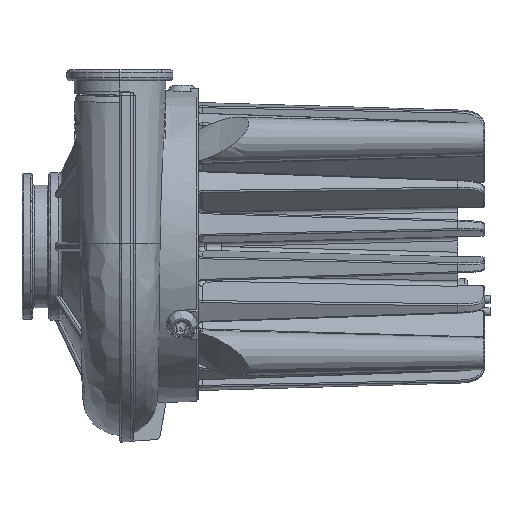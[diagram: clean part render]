
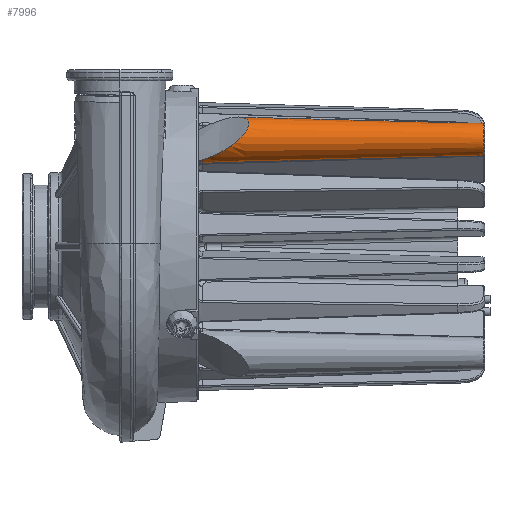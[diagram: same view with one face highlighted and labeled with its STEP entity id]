
A CAD part, left-side view. The second image highlights one B-rep face of the part: STEP entity #7996.
In plain terms, the highlighted conical face has half-angle 1.5 degrees and reference radius 3 mm.
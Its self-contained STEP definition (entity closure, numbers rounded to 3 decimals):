
#547=CONICAL_SURFACE('',#25968,3.,1.5);
#2120=FACE_OUTER_BOUND('',#10064,.T.);
#6475=B_SPLINE_CURVE_WITH_KNOTS('',3,(#48581,#48582,#48583,#48584),
 .UNSPECIFIED.,.F.,.F.,(4,4),(0.,1.),.UNSPECIFIED.);
#6476=B_SPLINE_CURVE_WITH_KNOTS('',3,(#48589,#48590,#48591,#48592),
 .UNSPECIFIED.,.F.,.F.,(4,4),(0.,1.),.UNSPECIFIED.);
#6477=B_SPLINE_CURVE_WITH_KNOTS('',3,(#48594,#48595,#48596,#48597),
 .UNSPECIFIED.,.F.,.F.,(4,4),(0.,1.),.UNSPECIFIED.);
#6478=B_SPLINE_CURVE_WITH_KNOTS('',3,(#48599,#48600,#48601,#48602,#48603,
#48604,#48605,#48606),.UNSPECIFIED.,.F.,.F.,(4,2,2,4),(0.,0.25,
0.5,1.),.UNSPECIFIED.);
#6479=B_SPLINE_CURVE_WITH_KNOTS('',3,(#48607,#48608,#48609,#48610,#48611,
#48612,#48613,#48614,#48615,#48616,#48617,#48618,#48619,#48620,#48621,#48622,
#48623,#48624,#48625,#48626,#48627,#48628,#48629,#48630,#48631,#48632,#48633,
#48634,#48635,#48636,#48637,#48638,#48639,#48640),.UNSPECIFIED.,.F.,.F.,
(4,2,2,2,2,2,2,2,2,2,2,2,2,2,2,2,4),(0.,0.125,0.187,
0.25,0.312,0.344,0.359,
0.375,0.5,0.562,0.625,
0.687,0.75,0.812,0.844,
0.875,1.),.UNSPECIFIED.);
#6480=B_SPLINE_CURVE_WITH_KNOTS('',3,(#48641,#48642,#48643,#48644),
 .UNSPECIFIED.,.F.,.F.,(4,4),(0.,1.),.UNSPECIFIED.);
#6481=B_SPLINE_CURVE_WITH_KNOTS('',3,(#48646,#48647,#48648,#48649),
 .UNSPECIFIED.,.F.,.F.,(4,4),(0.,1.),.UNSPECIFIED.);
#7996=ADVANCED_FACE('',(#2120),#547,.T.);
#10064=EDGE_LOOP('',(#15788,#15789,#15790,#15791,#15792,#15793,#15794,#15795));
#15788=ORIENTED_EDGE('',*,*,#23440,.T.);
#15789=ORIENTED_EDGE('',*,*,#23441,.T.);
#15790=ORIENTED_EDGE('',*,*,#23442,.T.);
#15791=ORIENTED_EDGE('',*,*,#23443,.T.);
#15792=ORIENTED_EDGE('',*,*,#23444,.T.);
#15793=ORIENTED_EDGE('',*,*,#23445,.T.);
#15794=ORIENTED_EDGE('',*,*,#23446,.T.);
#15795=ORIENTED_EDGE('',*,*,#23447,.T.);
#19217=VERTEX_POINT('',#40319);
#19218=VERTEX_POINT('',#40321);
#20303=VERTEX_POINT('',#48585);
#20304=VERTEX_POINT('',#48586);
#20305=VERTEX_POINT('',#48588);
#20306=VERTEX_POINT('',#48593);
#20307=VERTEX_POINT('',#48598);
#20308=VERTEX_POINT('',#48645);
#23440=EDGE_CURVE('',#20303,#20304,#6475,.T.);
#23441=EDGE_CURVE('',#20304,#20305,#24499,.T.);
#23442=EDGE_CURVE('',#20305,#20306,#6476,.T.);
#23443=EDGE_CURVE('',#20306,#20307,#6477,.T.);
#23444=EDGE_CURVE('',#20307,#19218,#6478,.T.);
#23445=EDGE_CURVE('',#19218,#19217,#6479,.T.);
#23446=EDGE_CURVE('',#19217,#20308,#6480,.T.);
#23447=EDGE_CURVE('',#20308,#20303,#6481,.T.);
#24499=CIRCLE('',#25967,3.008);
#25967=AXIS2_PLACEMENT_3D('',#48587,#30270,#30271);
#25968=AXIS2_PLACEMENT_3D('',#48650,#30272,#30273);
#30270=DIRECTION('',(0.,1.,0.));
#30271=DIRECTION('',(0.,0.,1.));
#30272=DIRECTION('',(0.,1.,0.));
#30273=DIRECTION('',(0.,0.,1.));
#40319=CARTESIAN_POINT('',(-21.766,48.5,15.97));
#40321=CARTESIAN_POINT('',(-15.97,48.5,21.766));
#48581=CARTESIAN_POINT('',(-19.382,47.721,15.664));
#48582=CARTESIAN_POINT('',(-19.246,27.88,16.208));
#48583=CARTESIAN_POINT('',(-19.154,10.404,16.699));
#48584=CARTESIAN_POINT('',(-19.101,-4.708,17.131));
#48585=CARTESIAN_POINT('',(-19.382,47.721,15.664));
#48586=CARTESIAN_POINT('',(-19.101,-4.708,17.131));
#48587=CARTESIAN_POINT('',(-20.001,-4.708,20.001));
#48588=CARTESIAN_POINT('',(-17.131,-4.708,19.101));
#48589=CARTESIAN_POINT('',(-17.131,-4.708,19.101));
#48590=CARTESIAN_POINT('',(-16.699,10.404,19.154));
#48591=CARTESIAN_POINT('',(-16.208,27.88,19.246));
#48592=CARTESIAN_POINT('',(-15.664,47.721,19.382));
#48593=CARTESIAN_POINT('',(-15.664,47.721,19.382));
#48594=CARTESIAN_POINT('',(-15.664,47.721,19.382));
#48595=CARTESIAN_POINT('',(-15.568,47.721,20.051));
#48596=CARTESIAN_POINT('',(-15.631,47.721,20.742));
#48597=CARTESIAN_POINT('',(-15.844,47.721,21.383));
#48598=CARTESIAN_POINT('',(-15.844,47.721,21.383));
#48599=CARTESIAN_POINT('',(-15.844,47.721,21.383));
#48600=CARTESIAN_POINT('',(-15.851,47.761,21.407));
#48601=CARTESIAN_POINT('',(-15.863,47.826,21.449));
#48602=CARTESIAN_POINT('',(-15.896,47.985,21.552));
#48603=CARTESIAN_POINT('',(-15.903,48.014,21.572));
#48604=CARTESIAN_POINT('',(-15.949,48.244,21.703));
#48605=CARTESIAN_POINT('',(-15.966,48.38,21.752));
#48606=CARTESIAN_POINT('',(-15.968,48.5,21.763));
#48607=CARTESIAN_POINT('',(-15.97,48.502,21.769));
#48608=CARTESIAN_POINT('',(-16.418,46.778,22.676));
#48609=CARTESIAN_POINT('',(-17.033,45.473,23.187));
#48610=CARTESIAN_POINT('',(-17.701,44.147,23.629));
#48611=CARTESIAN_POINT('',(-17.839,43.89,23.706));
#48612=CARTESIAN_POINT('',(-18.357,43.019,23.938));
#48613=CARTESIAN_POINT('',(-18.617,42.623,24.024));
#48614=CARTESIAN_POINT('',(-19.123,41.91,24.145));
#48615=CARTESIAN_POINT('',(-19.37,41.594,24.18));
#48616=CARTESIAN_POINT('',(-19.725,41.18,24.202));
#48617=CARTESIAN_POINT('',(-19.841,41.052,24.205));
#48618=CARTESIAN_POINT('',(-20.011,40.874,24.202));
#48619=CARTESIAN_POINT('',(-20.139,40.744,24.198));
#48620=CARTESIAN_POINT('',(-20.37,40.521,24.178));
#48621=CARTESIAN_POINT('',(-20.485,40.415,24.163));
#48622=CARTESIAN_POINT('',(-21.503,39.518,23.993));
#48623=CARTESIAN_POINT('',(-22.306,39.107,23.557));
#48624=CARTESIAN_POINT('',(-23.202,39.069,22.68));
#48625=CARTESIAN_POINT('',(-23.386,39.136,22.436));
#48626=CARTESIAN_POINT('',(-23.754,39.397,21.834));
#48627=CARTESIAN_POINT('',(-23.906,39.596,21.503));
#48628=CARTESIAN_POINT('',(-24.123,40.132,20.794));
#48629=CARTESIAN_POINT('',(-24.186,40.5,20.389));
#48630=CARTESIAN_POINT('',(-24.214,41.142,19.767));
#48631=CARTESIAN_POINT('',(-24.195,41.516,19.445));
#48632=CARTESIAN_POINT('',(-24.079,42.366,18.793));
#48633=CARTESIAN_POINT('',(-23.982,42.843,18.464));
#48634=CARTESIAN_POINT('',(-23.771,43.637,17.981));
#48635=CARTESIAN_POINT('',(-23.67,43.971,17.792));
#48636=CARTESIAN_POINT('',(-23.595,44.218,17.659));
#48637=CARTESIAN_POINT('',(-23.546,44.375,17.577));
#48638=CARTESIAN_POINT('',(-23.23,45.333,17.098));
#48639=CARTESIAN_POINT('',(-22.746,46.644,16.452));
#48640=CARTESIAN_POINT('',(-21.769,48.502,15.97));
#48641=CARTESIAN_POINT('',(-21.763,48.5,15.968));
#48642=CARTESIAN_POINT('',(-21.747,48.324,15.966));
#48643=CARTESIAN_POINT('',(-21.623,48.065,15.914));
#48644=CARTESIAN_POINT('',(-21.383,47.721,15.844));
#48645=CARTESIAN_POINT('',(-21.383,47.721,15.844));
#48646=CARTESIAN_POINT('',(-21.383,47.721,15.844));
#48647=CARTESIAN_POINT('',(-20.742,47.721,15.631));
#48648=CARTESIAN_POINT('',(-20.051,47.721,15.568));
#48649=CARTESIAN_POINT('',(-19.382,47.721,15.664));
#48650=CARTESIAN_POINT('',(-20.001,-5.,20.001));
